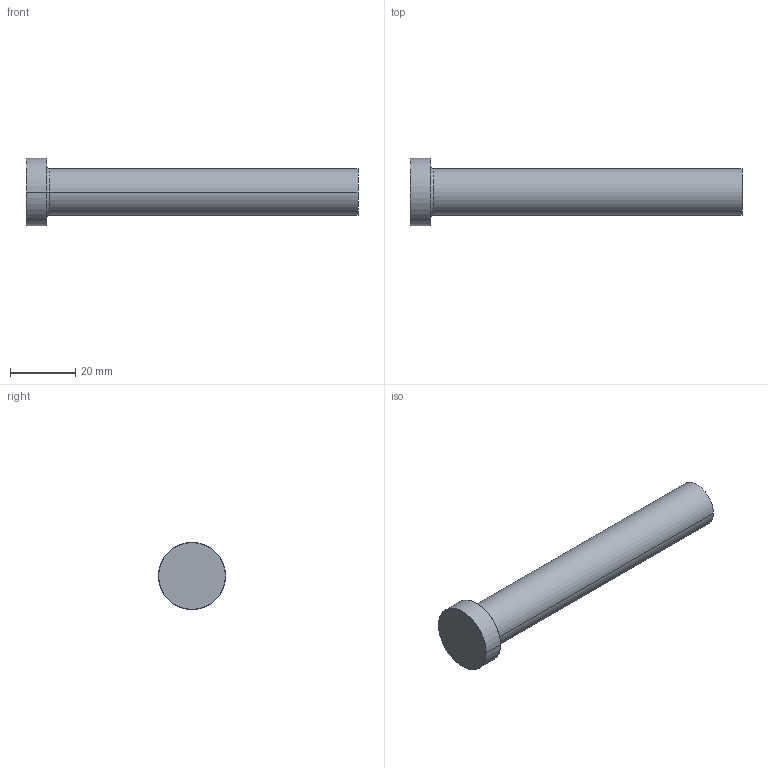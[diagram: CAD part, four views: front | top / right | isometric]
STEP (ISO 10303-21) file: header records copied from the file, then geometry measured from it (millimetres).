
FILE_DESCRIPTION (( 'STEP AP214' ), '1' );
FILE_NAME ('P35-4.STEP', '2020-03-12T11:58:18', ( '' ), ( '' ), 'SwSTEP 2.0', 'SolidWorks 2018', '' );
FILE_SCHEMA (( 'AUTOMOTIVE_DESIGN' ));
Length unit declared in the file: inch
Products named in the file (1): P35-4
Bounding box: 101.6 x 20.64 x 20.64 mm (x, y, z)
Volume: 17373 mm3; surface area: 5330.1 mm2
Topology: 1 solids, 1 shells, 13 faces, 24 edges, 14 vertices
Faces by surface type: cone 4, cylinder 4, plane 3, torus 2
Entity records: 366 total; most frequent: DIRECTION 68, CARTESIAN_POINT 52, ORIENTED_EDGE 48, AXIS2_PLACEMENT_3D 30, EDGE_CURVE 24, CIRCLE 16, VERTEX_POINT 14, EDGE_LOOP 14
